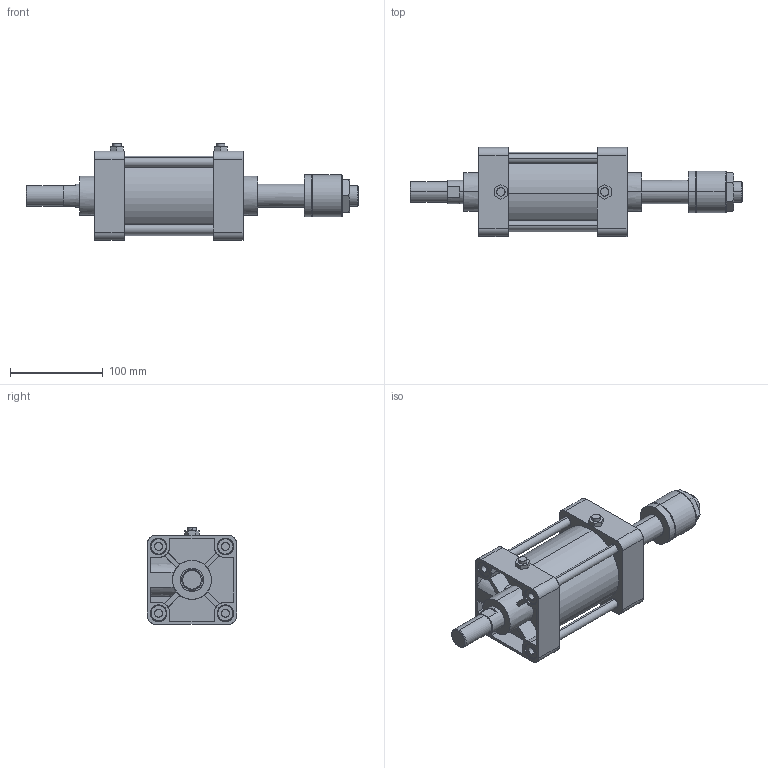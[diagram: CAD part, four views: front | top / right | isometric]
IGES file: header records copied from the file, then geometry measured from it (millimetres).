
Start section: SolidWorks IGES file using analytic representation for surfaces
Global section: file name: C:\Users\Toshiba\Desktop\KGA7-80#-50-N.IGS; native system: SolidWorks 2014; preprocessor: SolidWorks 2014; author: Toshiba; date: 160414.155359; units: millimetre
Bounding box: 358 x 96 x 104.3 mm (x, y, z)
Surface area: 194951.1 mm2 (no closed solid volume)
Topology: 0 solids, 0 shells, 361 faces, 5894 edges, 5890 vertices
Faces by surface type: bspline 199, revolution 162
